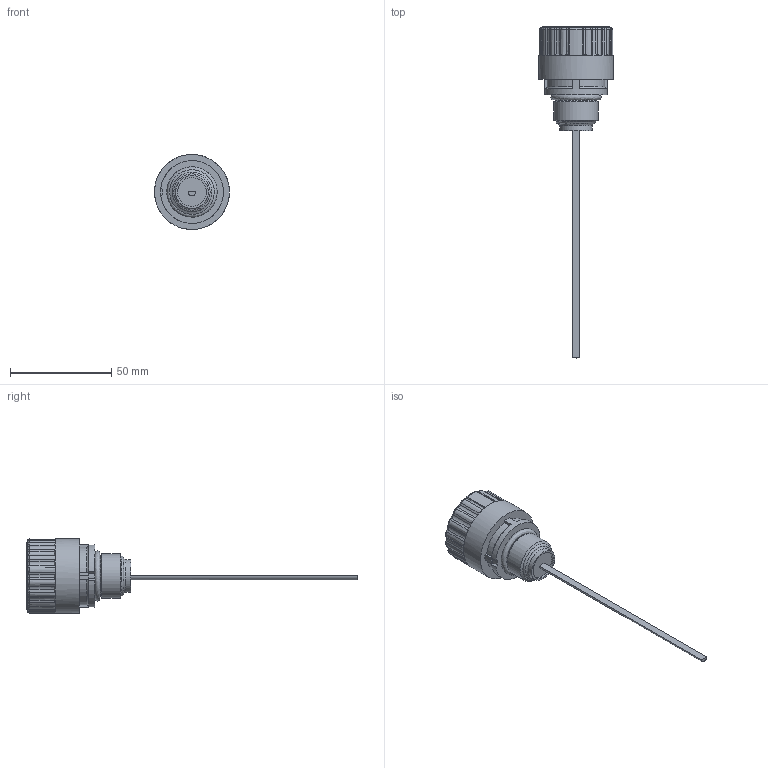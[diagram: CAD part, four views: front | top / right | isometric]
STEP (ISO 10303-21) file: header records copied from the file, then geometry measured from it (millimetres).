
FILE_DESCRIPTION((''),'2;1');
FILE_NAME('U:\Users\r.stiegele\12152800.stp','2014-03-11T09:00:22',( 'User'),('SDRC'),'I-DEAS Master Series 9','UNIX','Yes');
FILE_SCHEMA(('AUTOMOTIVE_DESIGN { 1 0 10303 214 1 1 1 1 }'));
Length unit declared in the file: millimetre
Products named in the file (1): 12152800
Bounding box: 36.98 x 163.9 x 37 mm (x, y, z)
Volume: 39266.7 mm3; surface area: 8693.6 mm2
Topology: 1 solids, 1 shells, 443 faces, 1184 edges, 757 vertices
Faces by surface type: bspline 443
Entity records: 13735 total; most frequent: CARTESIAN_POINT 6769, ORIENTED_EDGE 2358, EDGE_CURVE 1179, VERTEX_POINT 757, B_SPLINE_CURVE_WITH_KNOTS 565, EDGE_LOOP 462, FACE_OUTER_BOUND 443, ADVANCED_FACE 443
